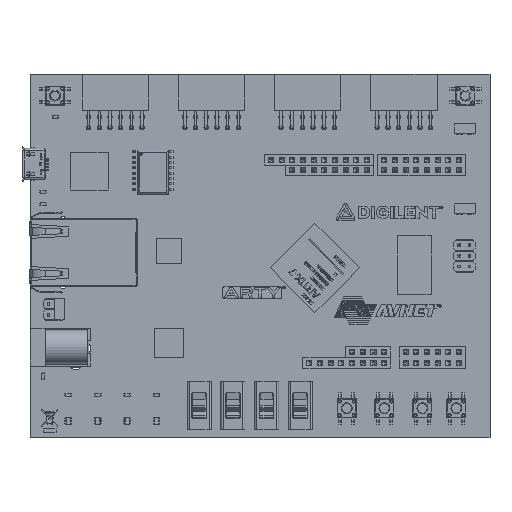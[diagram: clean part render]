
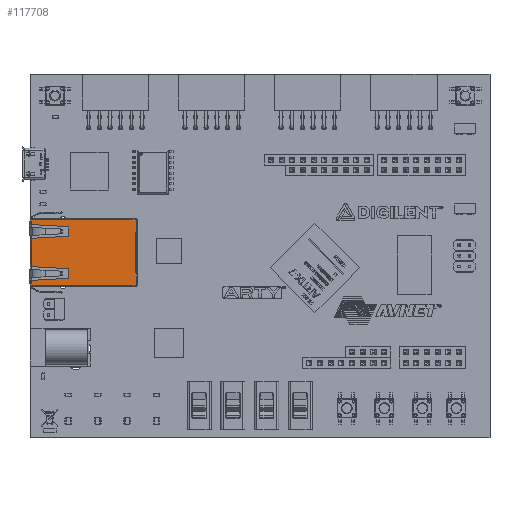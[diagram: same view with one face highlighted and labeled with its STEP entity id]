
A CAD part, top view. The second image highlights one B-rep face of the part: STEP entity #117708.
In plain terms, the highlighted planar face has unit normal (0, 0, 1) as drawn and (0, 0, -1) by its records, which use the part's own axes.
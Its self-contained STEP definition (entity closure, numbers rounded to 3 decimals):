
#9558=CIRCLE('',#124920,0.325);
#9559=CIRCLE('',#124921,0.1);
#9560=CIRCLE('',#124922,0.1);
#9561=CIRCLE('',#124923,0.1);
#9562=CIRCLE('',#124924,0.1);
#9563=CIRCLE('',#124925,0.325);
#21311=VERTEX_POINT('',#184830);
#21317=VERTEX_POINT('',#184882);
#21320=VERTEX_POINT('',#184901);
#21321=VERTEX_POINT('',#184903);
#21328=VERTEX_POINT('',#184936);
#21329=VERTEX_POINT('',#184938);
#21335=VERTEX_POINT('',#184966);
#21337=VERTEX_POINT('',#184984);
#21346=VERTEX_POINT('',#185035);
#21352=VERTEX_POINT('',#185112);
#21366=VERTEX_POINT('',#185349);
#21482=VERTEX_POINT('',#185609);
#21483=VERTEX_POINT('',#185610);
#21484=VERTEX_POINT('',#185615);
#21485=VERTEX_POINT('',#185617);
#21486=VERTEX_POINT('',#185619);
#21487=VERTEX_POINT('',#185621);
#21488=VERTEX_POINT('',#185624);
#21489=VERTEX_POINT('',#185626);
#21490=VERTEX_POINT('',#185628);
#21491=VERTEX_POINT('',#185630);
#21492=VERTEX_POINT('',#185632);
#21493=VERTEX_POINT('',#185634);
#21494=VERTEX_POINT('',#185637);
#34020=VECTOR('',#146783,1.);
#34024=VECTOR('',#146793,1.);
#34029=VECTOR('',#146804,1.);
#34056=VECTOR('',#146859,1.);
#34149=VECTOR('',#147037,1.);
#34150=VECTOR('',#147040,1.);
#34151=VECTOR('',#147041,1.);
#34152=VECTOR('',#147042,1.);
#34153=VECTOR('',#147045,1.);
#34154=VECTOR('',#147048,1.);
#34155=VECTOR('',#147049,1.);
#34156=VECTOR('',#147050,1.);
#34157=VECTOR('',#147051,1.);
#34158=VECTOR('',#147054,1.);
#34159=VECTOR('',#147057,1.);
#34160=VECTOR('',#147058,1.);
#34161=VECTOR('',#147059,1.);
#34162=VECTOR('',#147060,1.);
#46925=LINE('',#184902,#34020);
#46929=LINE('',#184937,#34024);
#46934=LINE('',#184985,#34029);
#46961=LINE('',#185351,#34056);
#47054=LINE('',#185608,#34149);
#47055=LINE('',#185612,#34150);
#47056=LINE('',#185613,#34151);
#47057=LINE('',#185614,#34152);
#47058=LINE('',#185618,#34153);
#47059=LINE('',#185622,#34154);
#47060=LINE('',#185623,#34155);
#47061=LINE('',#185625,#34156);
#47062=LINE('',#185627,#34157);
#47063=LINE('',#185631,#34158);
#47064=LINE('',#185635,#34159);
#47065=LINE('',#185636,#34160);
#47066=LINE('',#185638,#34161);
#47067=LINE('',#185639,#34162);
#62755=EDGE_CURVE('',#21321,#21320,#46925,.T.);
#62764=EDGE_CURVE('',#21329,#21328,#46929,.T.);
#62774=EDGE_CURVE('',#21337,#21335,#46934,.T.);
#62825=EDGE_CURVE('',#21366,#21352,#46961,.T.);
#62959=EDGE_CURVE('',#21482,#21483,#47054,.T.);
#62960=EDGE_CURVE('',#21483,#21311,#9558,.T.);
#62961=EDGE_CURVE('',#21311,#21329,#47055,.T.);
#62962=EDGE_CURVE('',#21328,#21335,#47056,.T.);
#62963=EDGE_CURVE('',#21484,#21337,#47057,.T.);
#62964=EDGE_CURVE('',#21484,#21485,#9559,.F.);
#62965=EDGE_CURVE('',#21486,#21485,#47058,.T.);
#62966=EDGE_CURVE('',#21486,#21487,#9560,.F.);
#62967=EDGE_CURVE('',#21352,#21487,#47059,.T.);
#62968=EDGE_CURVE('',#21488,#21366,#47060,.T.);
#62969=EDGE_CURVE('',#21489,#21488,#47061,.T.);
#62970=EDGE_CURVE('',#21489,#21490,#47062,.T.);
#62971=EDGE_CURVE('',#21490,#21491,#9561,.F.);
#62972=EDGE_CURVE('',#21491,#21492,#47063,.T.);
#62973=EDGE_CURVE('',#21492,#21493,#9562,.F.);
#62974=EDGE_CURVE('',#21493,#21346,#47064,.T.);
#62975=EDGE_CURVE('',#21494,#21346,#47065,.T.);
#62976=EDGE_CURVE('',#21494,#21321,#47066,.T.);
#62977=EDGE_CURVE('',#21320,#21317,#47067,.T.);
#62978=EDGE_CURVE('',#21317,#21482,#9563,.T.);
#93594=ORIENTED_EDGE('',*,*,#62959,.T.);
#93595=ORIENTED_EDGE('',*,*,#62960,.T.);
#93596=ORIENTED_EDGE('',*,*,#62961,.T.);
#93597=ORIENTED_EDGE('',*,*,#62764,.T.);
#93598=ORIENTED_EDGE('',*,*,#62962,.T.);
#93599=ORIENTED_EDGE('',*,*,#62774,.F.);
#93600=ORIENTED_EDGE('',*,*,#62963,.F.);
#93601=ORIENTED_EDGE('',*,*,#62964,.T.);
#93602=ORIENTED_EDGE('',*,*,#62965,.F.);
#93603=ORIENTED_EDGE('',*,*,#62966,.T.);
#93604=ORIENTED_EDGE('',*,*,#62967,.F.);
#93605=ORIENTED_EDGE('',*,*,#62825,.F.);
#93606=ORIENTED_EDGE('',*,*,#62968,.F.);
#93607=ORIENTED_EDGE('',*,*,#62969,.F.);
#93608=ORIENTED_EDGE('',*,*,#62970,.T.);
#93609=ORIENTED_EDGE('',*,*,#62971,.T.);
#93610=ORIENTED_EDGE('',*,*,#62972,.T.);
#93611=ORIENTED_EDGE('',*,*,#62973,.T.);
#93612=ORIENTED_EDGE('',*,*,#62974,.T.);
#93613=ORIENTED_EDGE('',*,*,#62975,.F.);
#93614=ORIENTED_EDGE('',*,*,#62976,.T.);
#93615=ORIENTED_EDGE('',*,*,#62755,.T.);
#93616=ORIENTED_EDGE('',*,*,#62977,.T.);
#93617=ORIENTED_EDGE('',*,*,#62978,.T.);
#103874=EDGE_LOOP('',(#93594,#93595,#93596,#93597,#93598,#93599,#93600,#93601,
#93602,#93603,#93604,#93605,#93606,#93607,#93608,#93609,#93610,#93611,#93612,
#93613,#93614,#93615,#93616,#93617));
#111309=FACE_BOUND('',#103874,.T.);
#117708=ADVANCED_FACE('',(#111309),#193570,.T.);
#124919=AXIS2_PLACEMENT_3D('',#185607,#147036,$);
#124920=AXIS2_PLACEMENT_3D('',#185611,#147038,#147039);
#124921=AXIS2_PLACEMENT_3D('',#185616,#147043,#147044);
#124922=AXIS2_PLACEMENT_3D('',#185620,#147046,#147047);
#124923=AXIS2_PLACEMENT_3D('',#185629,#147052,#147053);
#124924=AXIS2_PLACEMENT_3D('',#185633,#147055,#147056);
#124925=AXIS2_PLACEMENT_3D('',#185640,#147061,#147062);
#146783=DIRECTION('',(0.,1.,0.));
#146793=DIRECTION('',(0.,-1.,0.));
#146804=DIRECTION('',(1.,0.,0.));
#146859=DIRECTION('',(1.,0.,0.));
#147036=DIRECTION('',(0.,0.,-1.));
#147037=DIRECTION('',(1.,0.,0.));
#147038=DIRECTION('',(0.,0.,1.));
#147039=DIRECTION('',(-0.325,0.,0.));
#147040=DIRECTION('',(1.,0.,0.));
#147041=DIRECTION('',(0.,-1.,0.));
#147042=DIRECTION('',(0.055,-0.998,0.));
#147043=DIRECTION('',(0.,0.,-1.));
#147044=DIRECTION('',(0.,0.1,0.));
#147045=DIRECTION('',(1.,0.,0.));
#147046=DIRECTION('',(0.,0.,-1.));
#147047=DIRECTION('',(0.,0.1,0.));
#147048=DIRECTION('',(0.055,0.998,0.));
#147049=DIRECTION('',(1.,0.,0.));
#147050=DIRECTION('',(1.,0.,0.));
#147051=DIRECTION('',(-0.055,0.998,0.));
#147052=DIRECTION('',(0.,0.,-1.));
#147053=DIRECTION('',(0.,0.1,0.));
#147054=DIRECTION('',(-1.,0.,0.));
#147055=DIRECTION('',(0.,0.,-1.));
#147056=DIRECTION('',(0.,0.1,0.));
#147057=DIRECTION('',(-0.055,-0.998,0.));
#147058=DIRECTION('',(1.,0.,0.));
#147059=DIRECTION('',(0.,1.,0.));
#147060=DIRECTION('',(1.,0.,0.));
#147061=DIRECTION('',(0.,0.,1.));
#147062=DIRECTION('',(0.325,0.,0.));
#184830=CARTESIAN_POINT('',(4.873,12.4,-6.6));
#184882=CARTESIAN_POINT('',(-4.873,12.4,-6.6));
#184901=CARTESIAN_POINT('',(-7.75,12.4,-6.6));
#184902=CARTESIAN_POINT('',(-7.75,-3.861,-6.6));
#184903=CARTESIAN_POINT('',(-7.75,-3.861,-6.6));
#184936=CARTESIAN_POINT('',(7.75,-3.861,-6.6));
#184937=CARTESIAN_POINT('',(7.75,12.4,-6.6));
#184938=CARTESIAN_POINT('',(7.75,12.4,-6.6));
#184966=CARTESIAN_POINT('',(7.75,-12.4,-6.6));
#184984=CARTESIAN_POINT('',(6.633,-12.4,-6.6));
#184985=CARTESIAN_POINT('',(-7.75,-12.4,-6.6));
#185035=CARTESIAN_POINT('',(-6.633,-12.4,-6.6));
#185112=CARTESIAN_POINT('',(3.367,-12.4,-6.6));
#185349=CARTESIAN_POINT('',(2.33,-12.4,-6.6));
#185351=CARTESIAN_POINT('',(-7.75,-12.4,-6.6));
#185607=CARTESIAN_POINT('',(-7.75,-12.7,-6.6));
#185608=CARTESIAN_POINT('',(-4.575,12.205,-6.6));
#185609=CARTESIAN_POINT('',(-4.575,12.205,-6.6));
#185610=CARTESIAN_POINT('',(4.575,12.205,-6.6));
#185611=CARTESIAN_POINT('',(4.575,12.53,-6.6));
#185612=CARTESIAN_POINT('',(-7.75,12.4,-6.6));
#185613=CARTESIAN_POINT('',(7.75,12.4,-6.6));
#185614=CARTESIAN_POINT('',(6.15,-3.7,-6.6));
#185615=CARTESIAN_POINT('',(6.155,-3.794,-6.6));
#185616=CARTESIAN_POINT('',(6.055,-3.8,-6.6));
#185617=CARTESIAN_POINT('',(6.055,-3.7,-6.6));
#185618=CARTESIAN_POINT('',(3.85,-3.7,-6.6));
#185619=CARTESIAN_POINT('',(3.945,-3.7,-6.6));
#185620=CARTESIAN_POINT('',(3.945,-3.8,-6.6));
#185621=CARTESIAN_POINT('',(3.845,-3.794,-6.6));
#185622=CARTESIAN_POINT('',(3.35,-12.7,-6.6));
#185623=CARTESIAN_POINT('',(-2.33,-12.4,-6.6));
#185624=CARTESIAN_POINT('',(-2.33,-12.4,-6.6));
#185625=CARTESIAN_POINT('',(-7.75,-12.4,-6.6));
#185626=CARTESIAN_POINT('',(-3.367,-12.4,-6.6));
#185627=CARTESIAN_POINT('',(-3.35,-12.7,-6.6));
#185628=CARTESIAN_POINT('',(-3.845,-3.794,-6.6));
#185629=CARTESIAN_POINT('',(-3.945,-3.8,-6.6));
#185630=CARTESIAN_POINT('',(-3.945,-3.7,-6.6));
#185631=CARTESIAN_POINT('',(-3.85,-3.7,-6.6));
#185632=CARTESIAN_POINT('',(-6.055,-3.7,-6.6));
#185633=CARTESIAN_POINT('',(-6.055,-3.8,-6.6));
#185634=CARTESIAN_POINT('',(-6.155,-3.794,-6.6));
#185635=CARTESIAN_POINT('',(-6.15,-3.7,-6.6));
#185636=CARTESIAN_POINT('',(-7.75,-12.4,-6.6));
#185637=CARTESIAN_POINT('',(-7.75,-12.4,-6.6));
#185638=CARTESIAN_POINT('',(-7.75,-12.7,-6.6));
#185639=CARTESIAN_POINT('',(-7.75,12.4,-6.6));
#185640=CARTESIAN_POINT('',(-4.575,12.53,-6.6));
#193570=PLANE('',#124919);
